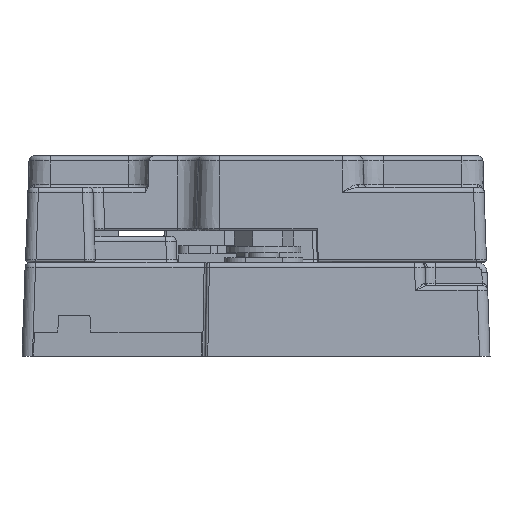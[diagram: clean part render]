
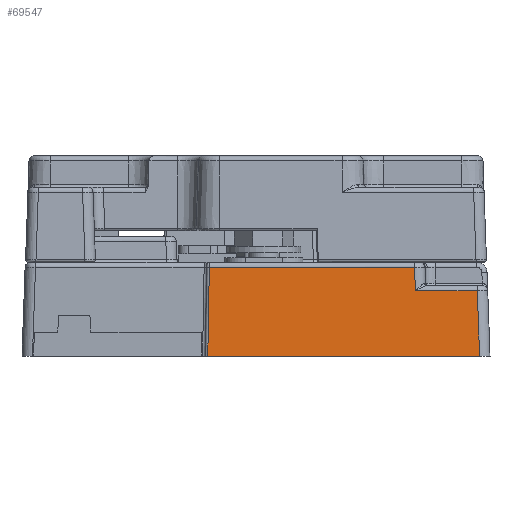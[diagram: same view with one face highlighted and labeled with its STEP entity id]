
A CAD part, left-side view. The second image highlights one B-rep face of the part: STEP entity #69547.
In plain terms, the highlighted planar face has unit normal (-0.999, 0, 0.035).
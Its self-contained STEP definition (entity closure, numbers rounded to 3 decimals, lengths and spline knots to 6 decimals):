
#13540=ORIENTED_EDGE('',*,*,#31148,.T.);
#13541=ORIENTED_EDGE('',*,*,#31149,.T.);
#13542=ORIENTED_EDGE('',*,*,#31133,.F.);
#13543=ORIENTED_EDGE('',*,*,#31150,.T.);
#13544=ORIENTED_EDGE('',*,*,#31151,.T.);
#13545=ORIENTED_EDGE('',*,*,#31152,.T.);
#31133=EDGE_CURVE('',#40254,#40255,#46568,.T.);
#31148=EDGE_CURVE('',#40267,#40268,#46574,.T.);
#31149=EDGE_CURVE('',#40268,#40255,#46575,.T.);
#31150=EDGE_CURVE('',#40254,#40269,#46576,.T.);
#31151=EDGE_CURVE('',#40269,#40270,#46577,.T.);
#31152=EDGE_CURVE('',#40270,#40267,#46578,.F.);
#40254=VERTEX_POINT('',#112121);
#40255=VERTEX_POINT('',#112122);
#40267=VERTEX_POINT('',#112150);
#40268=VERTEX_POINT('',#112151);
#40269=VERTEX_POINT('',#112154);
#40270=VERTEX_POINT('',#112156);
#46568=LINE('',#112120,#53377);
#46574=LINE('',#112149,#53383);
#46575=LINE('',#112152,#53384);
#46576=LINE('',#112153,#53385);
#46577=LINE('',#112155,#53386);
#46578=LINE('',#112157,#53387);
#53377=VECTOR('',#85893,1.);
#53383=VECTOR('',#85919,1.);
#53384=VECTOR('',#85920,1.);
#53385=VECTOR('',#85921,1.);
#53386=VECTOR('',#85922,1.);
#53387=VECTOR('',#85923,1.);
#58527=EDGE_LOOP('',(#13540,#13541,#13542,#13543,#13544,#13545));
#62922=FACE_BOUND('',#58527,.T.);
#66632=PLANE('',#74479);
#69547=ADVANCED_FACE('',(#62922),#66632,.T.);
#74479=AXIS2_PLACEMENT_3D('',#112148,#85917,#85918);
#85893=DIRECTION('',(0.,1.,0.));
#85917=DIRECTION('',(-0.999,0.,0.035));
#85918=DIRECTION('',(0.035,0.,0.999));
#85919=DIRECTION('',(0.,1.,0.));
#85920=DIRECTION('',(-0.035,0.017,-0.999));
#85921=DIRECTION('',(0.035,0.035,0.999));
#85922=DIRECTION('',(0.,1.,0.));
#85923=DIRECTION('',(-0.035,-0.035,-0.999));
#112120=CARTESIAN_POINT('',(-0.060247,0.02108,0.005162));
#112121=CARTESIAN_POINT('',(-0.060247,-0.0218,0.005162));
#112122=CARTESIAN_POINT('',(-0.060247,0.030329,0.005162));
#112148=CARTESIAN_POINT('',(-0.059618,0.02108,0.023162));
#112149=CARTESIAN_POINT('',(-0.059652,0.02108,0.022196));
#112150=CARTESIAN_POINT('',(-0.059652,-0.00933,0.022196));
#112151=CARTESIAN_POINT('',(-0.059652,0.030032,0.022196));
#112152=CARTESIAN_POINT('',(-0.059613,0.030013,0.023317));
#112153=CARTESIAN_POINT('',(-0.059778,-0.021331,0.018592));
#112154=CARTESIAN_POINT('',(-0.059809,-0.021362,0.017696));
#112155=CARTESIAN_POINT('',(-0.059809,0.02108,0.017696));
#112156=CARTESIAN_POINT('',(-0.059809,-0.009487,0.017696));
#112157=CARTESIAN_POINT('',(-0.05962,-0.009299,0.023092));
